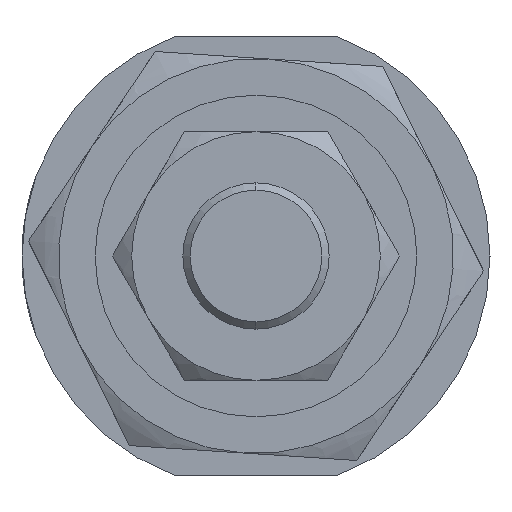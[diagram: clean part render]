
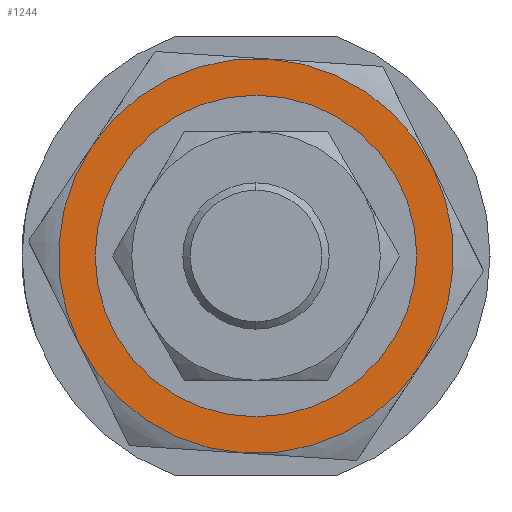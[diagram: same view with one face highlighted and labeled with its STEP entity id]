
A CAD part, left-side view. The second image highlights one B-rep face of the part: STEP entity #1244.
In plain terms, the highlighted planar face has unit normal (-1, 0, 0) as drawn and (0, 0, -1) by its records, which use the part's own axes.
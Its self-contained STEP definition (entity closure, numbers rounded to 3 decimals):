
#1 = CARTESIAN_POINT ( 'NONE',  ( -13.5, 0., -5. ) ) ;
#10 = EDGE_CURVE ( 'NONE', #343, #1768, #2583, .T. ) ;
#25 = CARTESIAN_POINT ( 'NONE',  ( -6.75, 11.691, -5. ) ) ;
#33 = DIRECTION ( 'NONE',  ( 1., 0., 0. ) ) ;
#86 = VERTEX_POINT ( 'NONE', #1 ) ;
#108 = DIRECTION ( 'NONE',  ( 1., 0., 0. ) ) ;
#148 = FACE_BOUND ( 'NONE', #2985, .T. ) ;
#150 = EDGE_CURVE ( 'NONE', #86, #1394, #1646, .T. ) ;
#191 = CARTESIAN_POINT ( 'NONE',  ( 0., 0., -5. ) ) ;
#226 = DIRECTION ( 'NONE',  ( 0., 0., 1. ) ) ;
#227 = DIRECTION ( 'NONE',  ( 0., 0., 1. ) ) ;
#242 = CARTESIAN_POINT ( 'NONE',  ( 6.75, -11.691, -5. ) ) ;
#248 = EDGE_CURVE ( 'NONE', #1768, #430, #961, .T. ) ;
#261 = DIRECTION ( 'NONE',  ( 0., 0., 1. ) ) ;
#305 = EDGE_CURVE ( 'NONE', #1394, #2874, #764, .T. ) ;
#341 = AXIS2_PLACEMENT_3D ( 'NONE', #2246, #2236, #2005 ) ;
#343 = VERTEX_POINT ( 'NONE', #2734 ) ;
#409 = AXIS2_PLACEMENT_3D ( 'NONE', #2907, #1992, #2431 ) ;
#430 = VERTEX_POINT ( 'NONE', #25 ) ;
#457 = DIRECTION ( 'NONE',  ( 1., 0., 0. ) ) ;
#466 = CARTESIAN_POINT ( 'NONE',  ( 0., 0., -5. ) ) ;
#590 = CARTESIAN_POINT ( 'NONE',  ( -10., 0., -5. ) ) ;
#698 = ORIENTED_EDGE ( 'NONE', *, *, #884, .F. ) ;
#748 = CARTESIAN_POINT ( 'NONE',  ( 0., 0., -5. ) ) ;
#764 = CIRCLE ( 'NONE', #1902, 13.5 ) ;
#771 = ORIENTED_EDGE ( 'NONE', *, *, #248, .F. ) ;
#787 = EDGE_CURVE ( 'NONE', #2874, #343, #1711, .T. ) ;
#803 = ORIENTED_EDGE ( 'NONE', *, *, #305, .F. ) ;
#837 = AXIS2_PLACEMENT_3D ( 'NONE', #1367, #1139, #457 ) ;
#884 = EDGE_CURVE ( 'NONE', #430, #86, #2854, .T. ) ;
#961 = CIRCLE ( 'NONE', #837, 13.5 ) ;
#1009 = VERTEX_POINT ( 'NONE', #590 ) ;
#1041 = EDGE_CURVE ( 'NONE', #1874, #1009, #1343, .T. ) ;
#1043 = AXIS2_PLACEMENT_3D ( 'NONE', #2303, #226, #2975 ) ;
#1094 = FACE_OUTER_BOUND ( 'NONE', #1757, .T. ) ;
#1139 = DIRECTION ( 'NONE',  ( 0., 0., 1. ) ) ;
#1244 = ADVANCED_FACE ( 'NONE', ( #148, #1094 ), #1840, .F. ) ;
#1335 = CARTESIAN_POINT ( 'NONE',  ( 6.75, 11.691, -5. ) ) ;
#1343 = CIRCLE ( 'NONE', #409, 10. ) ;
#1367 = CARTESIAN_POINT ( 'NONE',  ( 0., 0., -5. ) ) ;
#1377 = AXIS2_PLACEMENT_3D ( 'NONE', #748, #261, #1645 ) ;
#1394 = VERTEX_POINT ( 'NONE', #2003 ) ;
#1504 = ORIENTED_EDGE ( 'NONE', *, *, #150, .F. ) ;
#1590 = EDGE_CURVE ( 'NONE', #1009, #1874, #2922, .T. ) ;
#1645 = DIRECTION ( 'NONE',  ( 1., 0., 0. ) ) ;
#1646 = CIRCLE ( 'NONE', #341, 13.5 ) ;
#1652 = AXIS2_PLACEMENT_3D ( 'NONE', #2782, #1947, #108 ) ;
#1711 = CIRCLE ( 'NONE', #1377, 13.5 ) ;
#1757 = EDGE_LOOP ( 'NONE', ( #2291, #2810, #803, #1504, #698, #771 ) ) ;
#1768 = VERTEX_POINT ( 'NONE', #1335 ) ;
#1840 = PLANE ( 'NONE',  #2714 ) ;
#1874 = VERTEX_POINT ( 'NONE', #2286 ) ;
#1902 = AXIS2_PLACEMENT_3D ( 'NONE', #2540, #2766, #2522 ) ;
#1947 = DIRECTION ( 'NONE',  ( 0., 0., 1. ) ) ;
#1992 = DIRECTION ( 'NONE',  ( 0., 0., 1. ) ) ;
#2003 = CARTESIAN_POINT ( 'NONE',  ( -6.75, -11.691, -5. ) ) ;
#2005 = DIRECTION ( 'NONE',  ( 1., 0., 0. ) ) ;
#2070 = DIRECTION ( 'NONE',  ( 0., 0., 1. ) ) ;
#2236 = DIRECTION ( 'NONE',  ( 0., 0., 1. ) ) ;
#2246 = CARTESIAN_POINT ( 'NONE',  ( 0., 0., -5. ) ) ;
#2286 = CARTESIAN_POINT ( 'NONE',  ( 10., 0., -5. ) ) ;
#2291 = ORIENTED_EDGE ( 'NONE', *, *, #10, .F. ) ;
#2301 = DIRECTION ( 'NONE',  ( 1., 0., 0. ) ) ;
#2303 = CARTESIAN_POINT ( 'NONE',  ( 0., 0., -5. ) ) ;
#2431 = DIRECTION ( 'NONE',  ( 1., 0., 0. ) ) ;
#2522 = DIRECTION ( 'NONE',  ( 1., 0., 0. ) ) ;
#2540 = CARTESIAN_POINT ( 'NONE',  ( 0., 0., -5. ) ) ;
#2555 = ORIENTED_EDGE ( 'NONE', *, *, #1041, .T. ) ;
#2583 = CIRCLE ( 'NONE', #2771, 13.5 ) ;
#2647 = ORIENTED_EDGE ( 'NONE', *, *, #1590, .T. ) ;
#2714 = AXIS2_PLACEMENT_3D ( 'NONE', #466, #2070, #2301 ) ;
#2734 = CARTESIAN_POINT ( 'NONE',  ( 13.5, 0., -5. ) ) ;
#2766 = DIRECTION ( 'NONE',  ( 0., 0., 1. ) ) ;
#2771 = AXIS2_PLACEMENT_3D ( 'NONE', #191, #227, #33 ) ;
#2782 = CARTESIAN_POINT ( 'NONE',  ( 0., 0., -5. ) ) ;
#2810 = ORIENTED_EDGE ( 'NONE', *, *, #787, .F. ) ;
#2854 = CIRCLE ( 'NONE', #1652, 13.5 ) ;
#2874 = VERTEX_POINT ( 'NONE', #242 ) ;
#2907 = CARTESIAN_POINT ( 'NONE',  ( 0., 0., -5. ) ) ;
#2922 = CIRCLE ( 'NONE', #1043, 10. ) ;
#2975 = DIRECTION ( 'NONE',  ( 1., 0., 0. ) ) ;
#2985 = EDGE_LOOP ( 'NONE', ( #2555, #2647 ) ) ;
